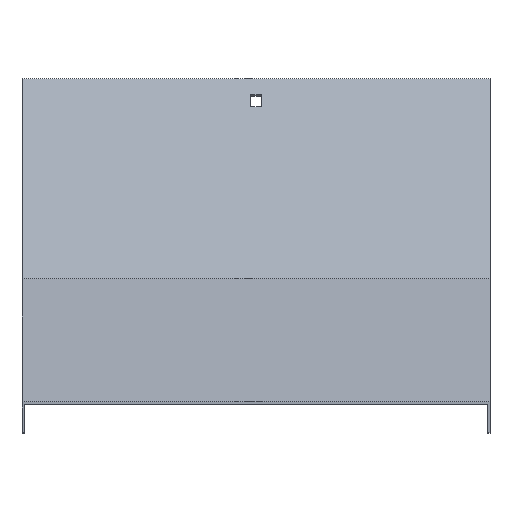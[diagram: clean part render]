
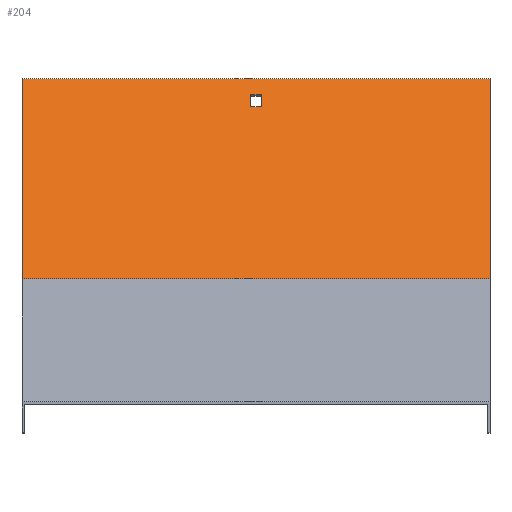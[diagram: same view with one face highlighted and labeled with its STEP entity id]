
A CAD part, top view. The second image highlights one B-rep face of the part: STEP entity #204.
In plain terms, the highlighted planar face has unit normal (0, 0.5, 0.866).
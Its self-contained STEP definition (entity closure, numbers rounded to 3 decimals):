
#13 = DIRECTION ( 'NONE',  ( 0., 0.5, 0.866 ) ) ;
#20 = CARTESIAN_POINT ( 'NONE',  ( -3.25, 199.352, -357.287 ) ) ;
#25 = VERTEX_POINT ( 'NONE', #20 ) ;
#43 = DIRECTION ( 'NONE',  ( 0., 0.866, -0.5 ) ) ;
#47 = DIRECTION ( 'NONE',  ( -1., 0., 0. ) ) ;
#55 = DIRECTION ( 'NONE',  ( 0., -0.866, 0.5 ) ) ;
#56 = VERTEX_POINT ( 'NONE', #110 ) ;
#63 = VERTEX_POINT ( 'NONE', #172 ) ;
#75 = EDGE_CURVE ( 'NONE', #531, #569, #683, .T. ) ;
#83 = CARTESIAN_POINT ( 'NONE',  ( 151.5, 209.744, -363.287 ) ) ;
#94 = FACE_BOUND ( 'NONE', #622, .T. ) ;
#96 = DIRECTION ( 'NONE',  ( 1., 0., 0. ) ) ;
#110 = CARTESIAN_POINT ( 'NONE',  ( 151.5, 80.1, -288.437 ) ) ;
#122 = LINE ( 'NONE', #766, #251 ) ;
#124 = LINE ( 'NONE', #392, #541 ) ;
#127 = CARTESIAN_POINT ( 'NONE',  ( -151.5, 80.1, -288.437 ) ) ;
#141 = VECTOR ( 'NONE', #547, 1000. ) ;
#154 = CARTESIAN_POINT ( 'NONE',  ( 151.5, 80.1, -288.437 ) ) ;
#160 = LINE ( 'NONE', #286, #525 ) ;
#172 = CARTESIAN_POINT ( 'NONE',  ( 151.5, 209.744, -363.287 ) ) ;
#173 = CARTESIAN_POINT ( 'NONE',  ( -3.25, 191.557, -352.787 ) ) ;
#187 = ORIENTED_EDGE ( 'NONE', *, *, #464, .T. ) ;
#202 = EDGE_CURVE ( 'NONE', #255, #430, #216, .T. ) ;
#204 = ADVANCED_FACE ( 'NONE', ( #94, #267 ), #288, .T. ) ;
#216 = LINE ( 'NONE', #806, #303 ) ;
#237 = CARTESIAN_POINT ( 'NONE',  ( 3.25, 199.352, -357.287 ) ) ;
#241 = EDGE_CURVE ( 'NONE', #559, #255, #535, .T. ) ;
#251 = VECTOR ( 'NONE', #390, 1000. ) ;
#255 = VERTEX_POINT ( 'NONE', #357 ) ;
#267 = FACE_OUTER_BOUND ( 'NONE', #653, .T. ) ;
#286 = CARTESIAN_POINT ( 'NONE',  ( 151.5, 80.1, -288.437 ) ) ;
#288 = PLANE ( 'NONE',  #471 ) ;
#298 = ORIENTED_EDGE ( 'NONE', *, *, #550, .F. ) ;
#303 = VECTOR ( 'NONE', #468, 1000. ) ;
#353 = VECTOR ( 'NONE', #96, 1000. ) ;
#357 = CARTESIAN_POINT ( 'NONE',  ( 3.25, 191.557, -352.787 ) ) ;
#369 = ORIENTED_EDGE ( 'NONE', *, *, #202, .F. ) ;
#390 = DIRECTION ( 'NONE',  ( -1., 0., 0. ) ) ;
#392 = CARTESIAN_POINT ( 'NONE',  ( -3.25, 191.557, -352.787 ) ) ;
#430 = VERTEX_POINT ( 'NONE', #237 ) ;
#444 = ORIENTED_EDGE ( 'NONE', *, *, #729, .T. ) ;
#461 = VECTOR ( 'NONE', #47, 1000. ) ;
#464 = EDGE_CURVE ( 'NONE', #56, #63, #160, .T. ) ;
#468 = DIRECTION ( 'NONE',  ( 0., 0.866, -0.5 ) ) ;
#471 = AXIS2_PLACEMENT_3D ( 'NONE', #154, #13, #609 ) ;
#474 = CARTESIAN_POINT ( 'NONE',  ( 3.25, 191.557, -352.787 ) ) ;
#493 = DIRECTION ( 'NONE',  ( 0., 0.866, -0.5 ) ) ;
#495 = CARTESIAN_POINT ( 'NONE',  ( -151.5, 80.1, -288.437 ) ) ;
#511 = LINE ( 'NONE', #700, #461 ) ;
#525 = VECTOR ( 'NONE', #493, 1000. ) ;
#531 = VERTEX_POINT ( 'NONE', #127 ) ;
#532 = EDGE_CURVE ( 'NONE', #56, #531, #511, .T. ) ;
#535 = LINE ( 'NONE', #474, #353 ) ;
#541 = VECTOR ( 'NONE', #55, 1000. ) ;
#546 = ORIENTED_EDGE ( 'NONE', *, *, #532, .F. ) ;
#547 = DIRECTION ( 'NONE',  ( -1., 0., 0. ) ) ;
#550 = EDGE_CURVE ( 'NONE', #430, #25, #122, .T. ) ;
#559 = VERTEX_POINT ( 'NONE', #173 ) ;
#569 = VERTEX_POINT ( 'NONE', #853 ) ;
#583 = VECTOR ( 'NONE', #43, 1000. ) ;
#588 = ORIENTED_EDGE ( 'NONE', *, *, #241, .F. ) ;
#609 = DIRECTION ( 'NONE',  ( 0., -0.866, 0.5 ) ) ;
#622 = EDGE_LOOP ( 'NONE', ( #369, #588, #669, #298 ) ) ;
#653 = EDGE_LOOP ( 'NONE', ( #675, #546, #187, #444 ) ) ;
#669 = ORIENTED_EDGE ( 'NONE', *, *, #803, .F. ) ;
#675 = ORIENTED_EDGE ( 'NONE', *, *, #75, .F. ) ;
#683 = LINE ( 'NONE', #495, #583 ) ;
#700 = CARTESIAN_POINT ( 'NONE',  ( 151.5, 80.1, -288.437 ) ) ;
#729 = EDGE_CURVE ( 'NONE', #63, #569, #805, .T. ) ;
#766 = CARTESIAN_POINT ( 'NONE',  ( 3.25, 199.352, -357.287 ) ) ;
#803 = EDGE_CURVE ( 'NONE', #25, #559, #124, .T. ) ;
#805 = LINE ( 'NONE', #83, #141 ) ;
#806 = CARTESIAN_POINT ( 'NONE',  ( 3.25, 191.557, -352.787 ) ) ;
#853 = CARTESIAN_POINT ( 'NONE',  ( -151.5, 209.744, -363.287 ) ) ;
